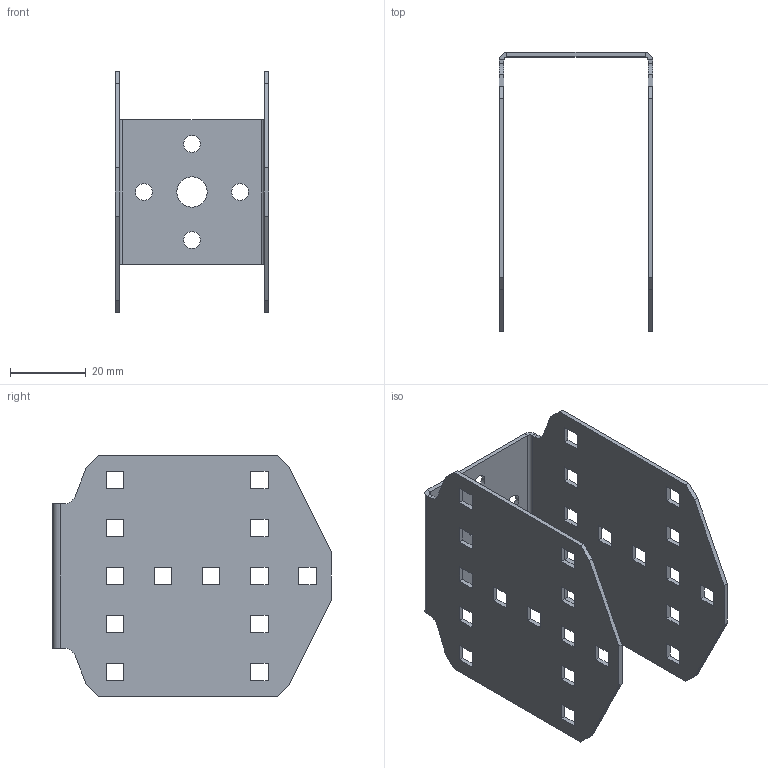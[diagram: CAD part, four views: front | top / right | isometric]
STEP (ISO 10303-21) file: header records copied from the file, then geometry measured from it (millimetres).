
FILE_DESCRIPTION (( 'STEP AP203' ), '1' );
FILE_NAME ('VL-SWERVE-01-BRACKET RevA.STEP', '2007-08-25T21:57:57', ( 'Innovation First, Inc.' ), ( 'Innovation First, Inc.' ), 'SwSTEP 2.0', 'SolidWorks 2006052', '' );
FILE_SCHEMA (( 'CONFIG_CONTROL_DESIGN' ));
Length unit declared in the file: inch
Products named in the file (1): VL-SWERVE-01-BRACKET RevA
Bounding box: 40.44 x 73.66 x 63.5 mm (x, y, z)
Volume: 10561.9 mm3; surface area: 19300.1 mm2
Topology: 1 solids, 1 shells, 160 faces, 458 edges, 300 vertices
Faces by surface type: plane 142, cylinder 18
Entity records: 5333 total; most frequent: CARTESIAN_POINT 919, ORIENTED_EDGE 916, DIRECTION 816, EDGE_CURVE 458, VECTOR 422, LINE 422, VERTEX_POINT 300, EDGE_LOOP 222
